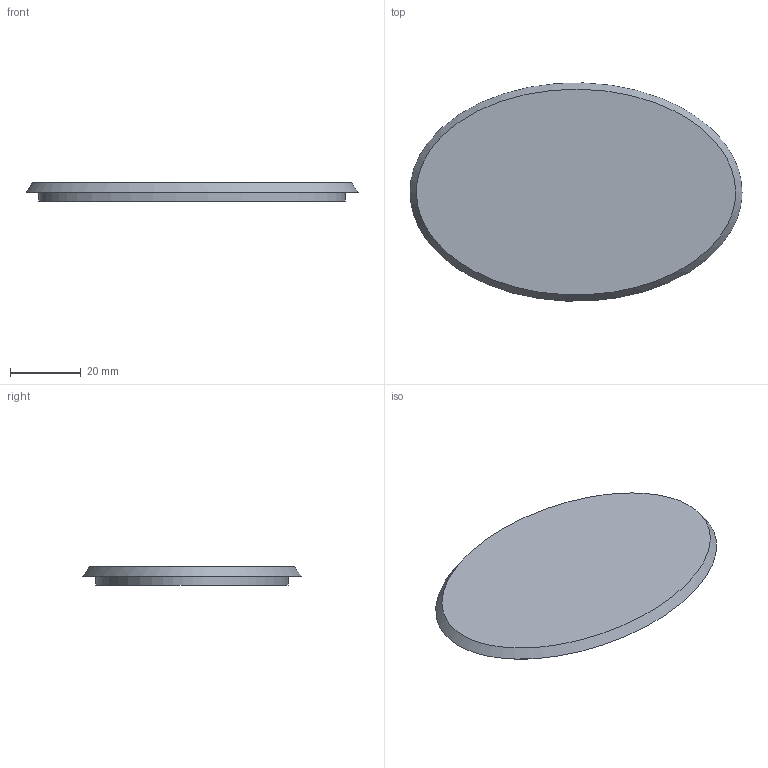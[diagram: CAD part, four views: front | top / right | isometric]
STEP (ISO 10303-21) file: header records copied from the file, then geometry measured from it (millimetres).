
FILE_DESCRIPTION(('Open CASCADE Model'),'2;1');
FILE_NAME('Open CASCADE Shape Model','2026-09-13T15:26:30',('Author'),( 'Open CASCADE'),'Open CASCADE STEP processor 7.9','build123d', 'Unknown');
FILE_SCHEMA(('AUTOMOTIVE_DESIGN { 1 0 10303 214 1 1 1 1 }'));
Length unit declared in the file: millimetre
Products named in the file (2): =>[0:1:1:2]; COMPOUND
Assembly tree (1 placements, depth 2):
  =>[0:1:1:2]
    COMPOUND
Bounding box: 93.6 x 61.5 x 5.1 mm (x, y, z)
Volume: 20441 mm3; surface area: 9947 mm2
Topology: 1 solids, 1 shells, 5 faces, 6 edges, 4 vertices
Faces by surface type: plane 3, bspline 1, extrusion 1
Entity records: 238 total; most frequent: CARTESIAN_POINT 59, DIRECTION 34, ORIENTED_EDGE 12, PCURVE 12, DEFINITIONAL_REPRESENTATION 12, AXIS2_PLACEMENT_3D 10, VECTOR 10, ELLIPSE 9
